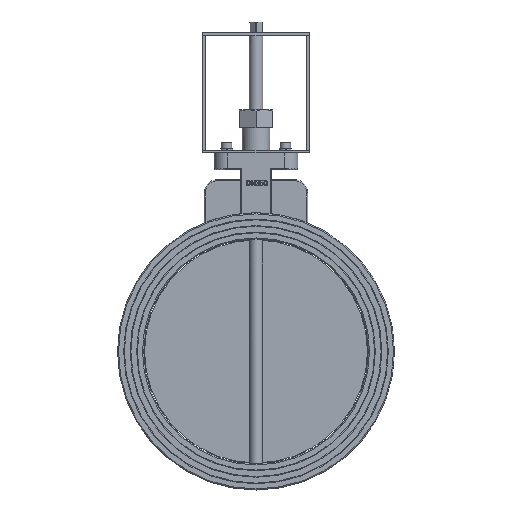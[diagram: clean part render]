
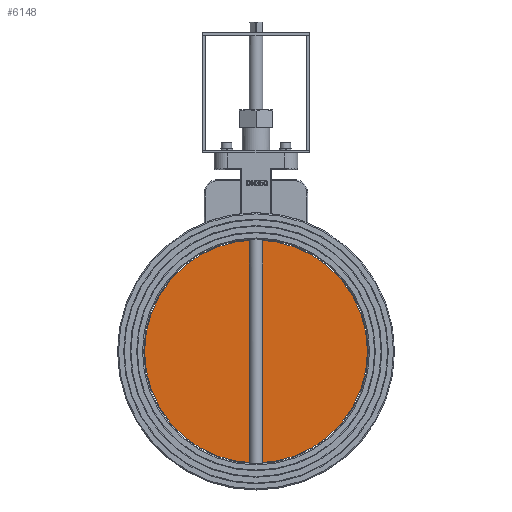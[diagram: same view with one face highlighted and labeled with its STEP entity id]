
A CAD part, top view. The second image highlights one B-rep face of the part: STEP entity #6148.
In plain terms, the highlighted planar face has unit normal (0, 0, 1) as drawn and (0, 0, -1) by its records, which use the part's own axes.
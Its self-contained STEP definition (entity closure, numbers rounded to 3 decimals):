
#1834=FACE_OUTER_BOUND('',#2276,.T.);
#2276=EDGE_LOOP('',(#5091));
#2584=CIRCLE('',#6602,167.);
#3026=VERTEX_POINT('',#10390);
#3759=EDGE_CURVE('',#3026,#3026,#2584,.T.);
#5091=ORIENTED_EDGE('',*,*,#3759,.T.);
#5835=PLANE('',#6603);
#6148=ADVANCED_FACE('',(#1834),#5835,.F.);
#6602=AXIS2_PLACEMENT_3D('',#10391,#7723,#7724);
#6603=AXIS2_PLACEMENT_3D('',#10392,#7725,#7726);
#7723=DIRECTION('center_axis',(0.,0.,-1.));
#7724=DIRECTION('ref_axis',(-1.,0.,0.));
#7725=DIRECTION('center_axis',(0.,0.,1.));
#7726=DIRECTION('ref_axis',(1.,0.,0.));
#10390=CARTESIAN_POINT('',(167.,0.,0.));
#10391=CARTESIAN_POINT('Origin',(0.,0.,0.));
#10392=CARTESIAN_POINT('Origin',(0.,0.,
0.));
